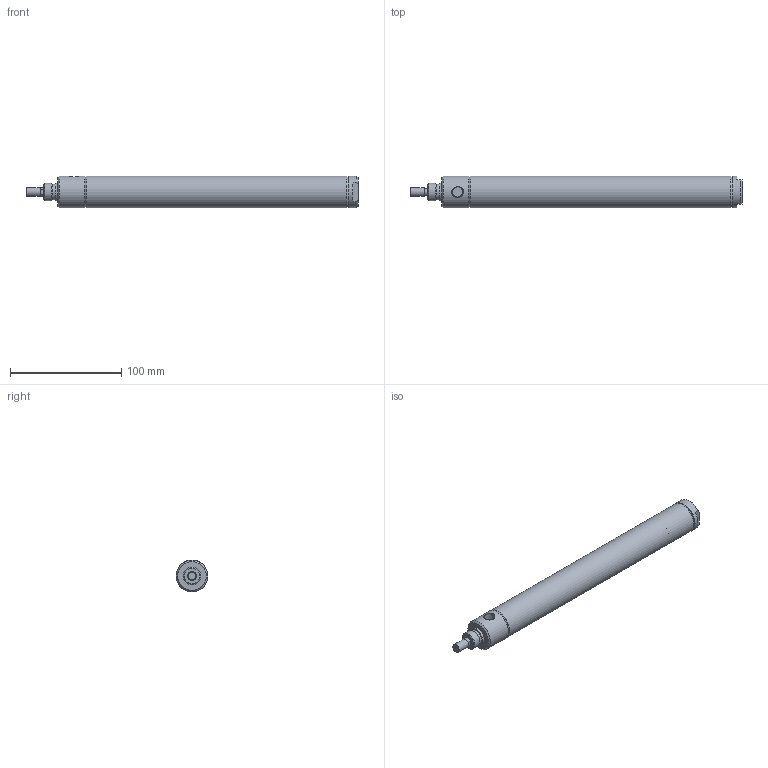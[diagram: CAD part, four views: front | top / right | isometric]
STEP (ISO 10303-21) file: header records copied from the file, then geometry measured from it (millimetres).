
FILE_DESCRIPTION( ( 'STEP AP214' ), '1' );
FILE_NAME( 'p:/temp/worker_459/temp/exporttempdir_508_49_rqOJr/format_0/1062D01-08A.stp', '2020-05-07T14:49:23', ( 'License CC BY-ND 4.0' ), ( 'CADENAS' ), ' ', 'PARTsolutions', ' ' );
FILE_SCHEMA( ( 'AUTOMOTIVE_DESIGN { 1 0 10303 214 1 1 1 1 }' ) );
Length unit declared in the file: inch
Products named in the file (3): 1062D01-08A; _1062D01-08A-001062D01-08A-0000A00A0b; _1062D01-08A-001062D01-08A-0000A00A0r
Assembly tree (2 placements, depth 2):
  1062D01-08A
    _1062D01-08A-001062D01-08A-0000A00A0b
    _1062D01-08A-001062D01-08A-0000A00A0r
Bounding box: 298.45 x 28.57 x 28.57 mm (x, y, z)
Volume: 66330 mm3; surface area: 58645.9 mm2
Topology: 2 solids, 2 shells, 51 faces, 99 edges, 62 vertices
Faces by surface type: plane 26, cone 13, cylinder 12
Full cylindrical faces by diameter (mm): 7.938 x1, 7.95 x3, 14.196 x1, 15.85 x1, 15.875 x1, 26.987 x2, 28.397 x1, 28.575 x2
Entity records: 1700 total; most frequent: CARTESIAN_POINT 278, DIRECTION 220, ORIENTED_EDGE 148, AXIS2_PLACEMENT_3D 100, EDGE_LOOP 82, EDGE_CURVE 74, FACE_OUTER_BOUND 63, VERTEX_POINT 58
